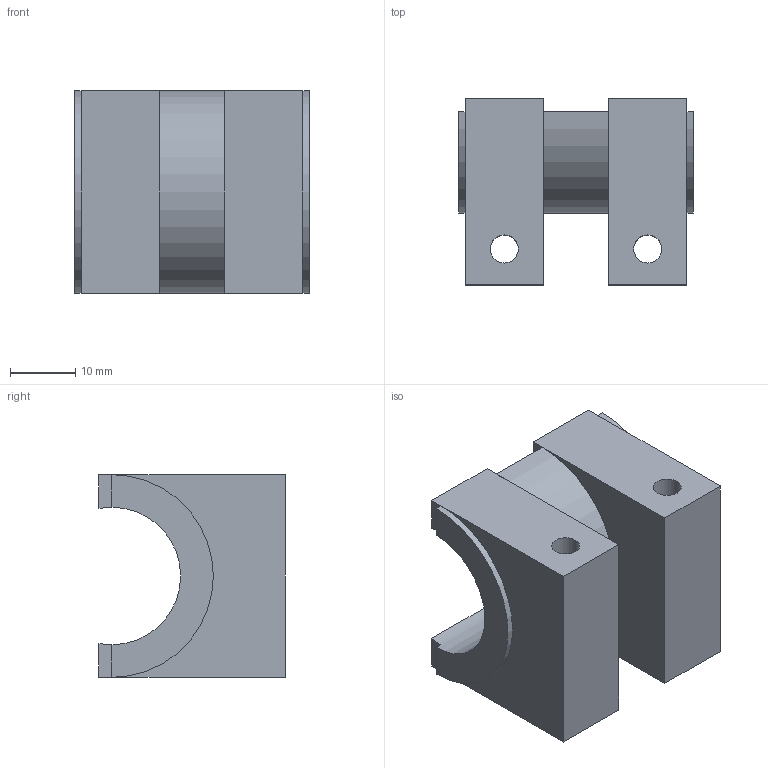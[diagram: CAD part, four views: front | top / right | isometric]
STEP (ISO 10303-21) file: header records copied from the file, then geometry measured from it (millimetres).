
FILE_DESCRIPTION(('Open CASCADE Model'),'2;1');
FILE_NAME('Open CASCADE Shape Model','2026-10-16T17:03:11',('Author'),( 'Open CASCADE'),'Open CASCADE STEP processor 7.9','Open CASCADE 7.9' ,'Unknown');
FILE_SCHEMA(('AUTOMOTIVE_DESIGN { 1 0 10303 214 1 1 1 1 }'));
Length unit declared in the file: millimetre
Products named in the file (1): Open CASCADE STEP translator 7.9 2
Bounding box: 36 x 28.52 x 31.05 mm (x, y, z)
Volume: 17391.3 mm3; surface area: 7494.6 mm2
Topology: 1 solids, 1 shells, 52 faces, 126 edges, 78 vertices
Faces by surface type: plane 44, cylinder 8
Full cylindrical faces by diameter (mm): 4.3 x4
Entity records: 3134 total; most frequent: CARTESIAN_POINT 663, DIRECTION 432, LINE 278, VECTOR 278, ORIENTED_EDGE 252, PCURVE 252, DEFINITIONAL_REPRESENTATION 252, EDGE_CURVE 126
